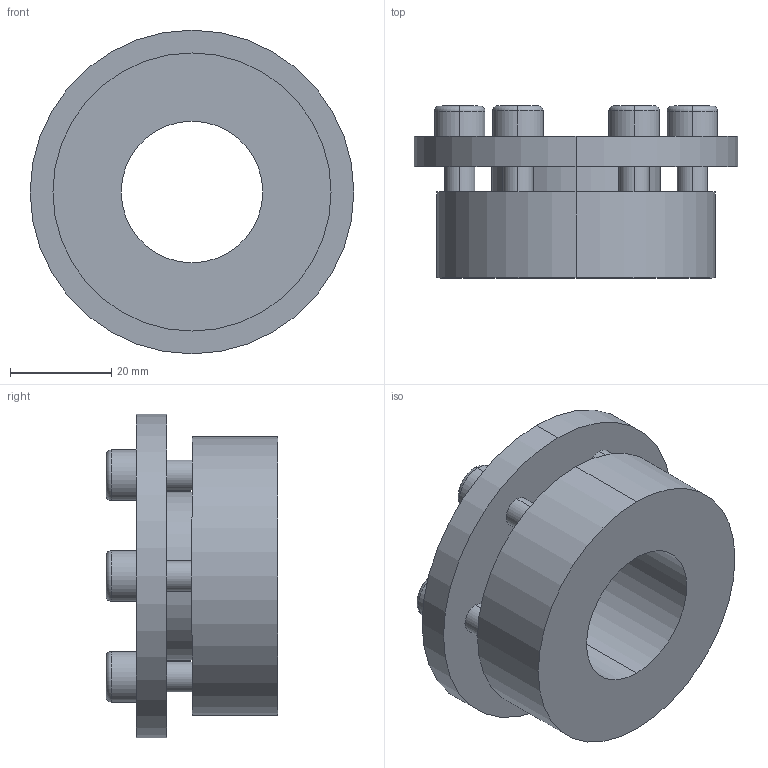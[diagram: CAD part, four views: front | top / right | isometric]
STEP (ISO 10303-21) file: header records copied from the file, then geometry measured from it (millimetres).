
FILE_DESCRIPTION (( 'STEP AP203' ), '1' );
FILE_NAME ('PL-H6 28-55.STEP', '2021-10-23T01:35:00', ( '' ), ( '' ), 'SwSTEP 2.0', 'SolidWorks 2018', '' );
FILE_SCHEMA (( 'CONFIG_CONTROL_DESIGN' ));
Length unit declared in the file: millimetre
Products named in the file (1): PL-H6 28-55
Bounding box: 64 x 34 x 64 mm (x, y, z)
Volume: 50078.1 mm3; surface area: 16918.6 mm2
Topology: 1 solids, 1 shells, 96 faces, 228 edges, 148 vertices
Faces by surface type: plane 52, cylinder 32, torus 12
Entity records: 2889 total; most frequent: DIRECTION 510, CARTESIAN_POINT 473, ORIENTED_EDGE 456, EDGE_CURVE 228, AXIS2_PLACEMENT_3D 185, VERTEX_POINT 148, LINE 140, VECTOR 140
